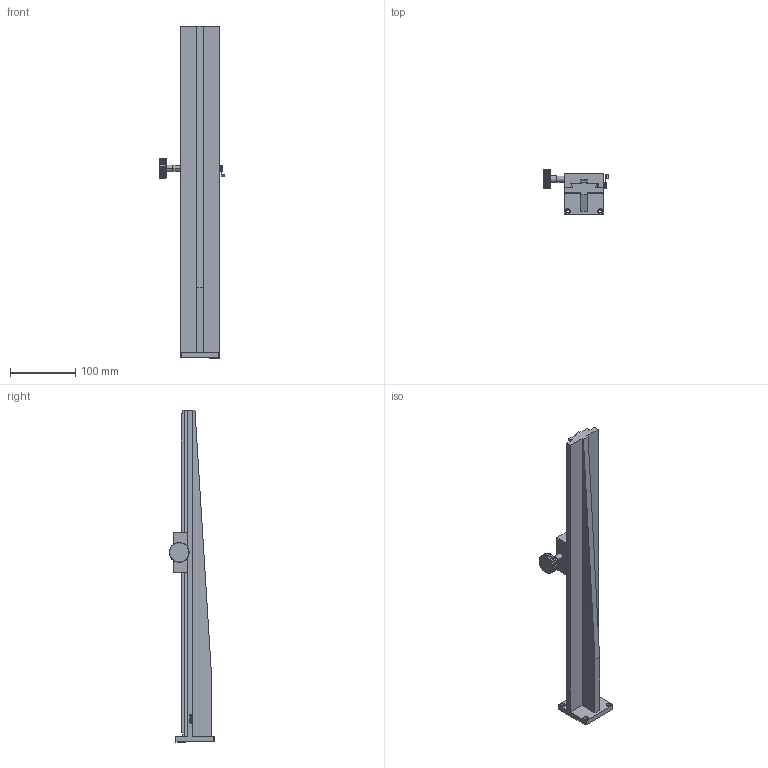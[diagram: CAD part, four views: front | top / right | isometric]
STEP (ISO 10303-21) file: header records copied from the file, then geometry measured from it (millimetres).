
FILE_DESCRIPTION (( 'STEP AP214' ), '1' );
FILE_NAME ('PT-DZ60-500（一体）.STEP', '2022-09-17T05:14:13', ( '' ), ( '' ), 'SwSTEP 2.0', 'SolidWorks 2017', '' );
FILE_SCHEMA (( 'AUTOMOTIVE_DESIGN' ));
Length unit declared in the file: millimetre
Products named in the file (7): LWX40.0.4; LWX60 賑輸; LWX40.0.3; LWX60.0.1; LWX60-500-1 （新）; PT-DZ60-500（一体）
Assembly tree (6 placements, depth 3):
  PT-DZ60-500（一体）
    LWX60-500-1 （新）
    LWX60 賑輸
      LWX60 賑輸
      LWX60.0.1
      LWX40.0.3
      LWX40.0.4
Bounding box: 100.5 x 69 x 508 mm (x, y, z)
Volume: 544803.8 mm3; surface area: 129755.2 mm2
Topology: 5 solids, 5 shells, 695 faces, 1907 edges, 1266 vertices
Faces by surface type: plane 324, cylinder 208, bspline 153, cone 10
Entity records: 33150 total; most frequent: CARTESIAN_POINT 12521, ORIENTED_EDGE 3814, DIRECTION 2833, EDGE_CURVE 1907, VERTEX_POINT 1266, VECTOR 1145, LINE 1145, AXIS2_PLACEMENT_3D 844
